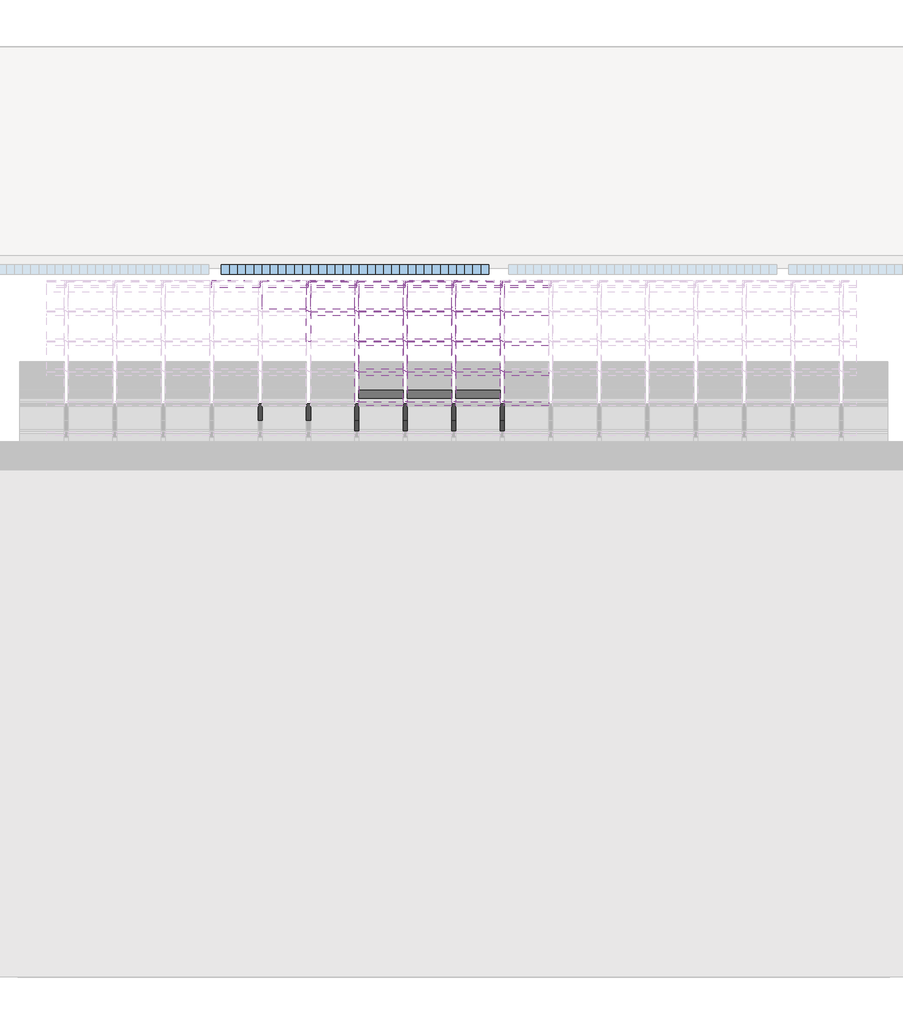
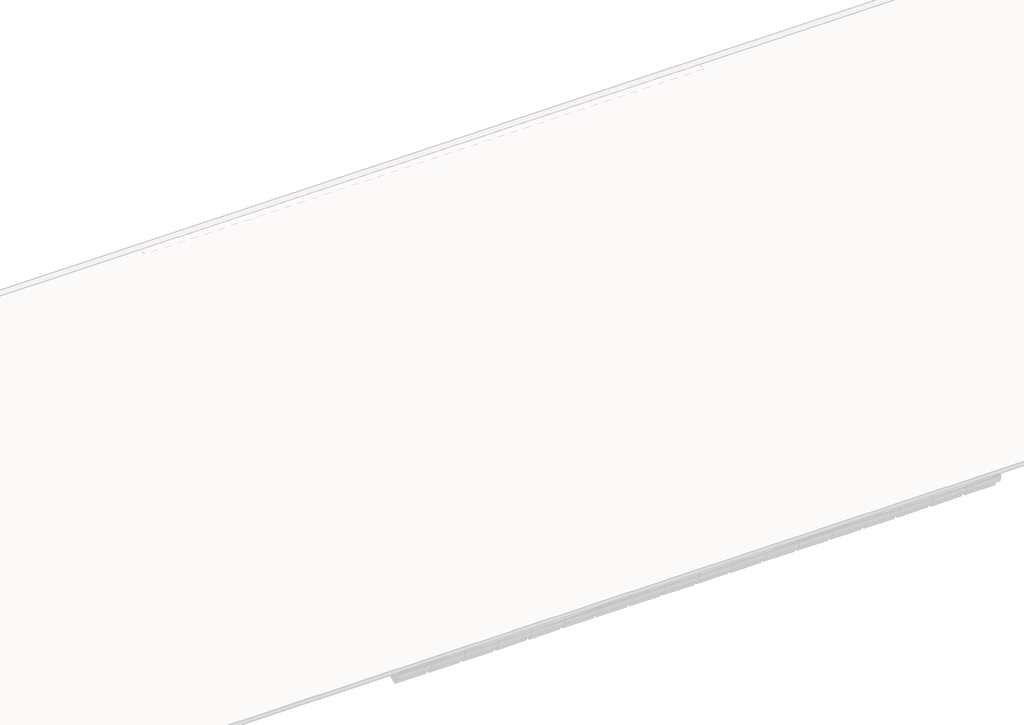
# One storey, part 33 of 57: 88 members, 32 plates, 1 window.
"""IFC4 building model written with IfcOpenShell, lengths in millimetres."""

from ifc_helpers import new_model, si_unit, origin, place, context, project, spatial, transform, mapped, element, save
from components import rectangular_mullion_4c4137b9, rectangular_mullion_59984080, rectangular_mullion_2d2423ea, rectangular_mullion_3ac3718c, rectangular_mullion_caibro_df98490b, rectangular_mullion_caibro_e4384bba, rectangular_mullion_caibro_0993a3cf, rectangular_mullion_caibro_650698a1, empty_system_panel_vazio_178faf58, empty_system_panel_vazio_2c78850d, window_60306791, window_6c828501, window_02d14e1e

model = new_model("IFC4")

# Units and contexts
model_context = context("Model", 3, world=origin())
ifc_project = project(units=[si_unit("LENGTHUNIT", "METRE", prefix="MILLI")], contexts=[model_context])

# Site, building, storey
site = spatial("IfcSite", under=ifc_project)
building = spatial("IfcBuilding", under=site)
storey = spatial("IfcBuildingStorey", under=building, Name="Nível 2", Elevation=4100.0)

# Members
placement = place(None, origin())
rectangular_mullion_shape = rectangular_mullion_4c4137b9(model_context)
element("IfcMember", 1, ObjectType="Rectangular Mullion : Ripa", at=placement, inside=storey, context=model_context, shape_type="MappedRepresentation", body=[
    mapped(rectangular_mullion_shape, transform((21454.4876142, 15566.1284427, 5819.8877114), x_axis=(0.0, 0.9578262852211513, 0.2873478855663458), y_axis=(0.0, 0.2873478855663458, -0.9578262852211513), z_axis=(-1.0, 0.0, 0.0))),
])
element("IfcMember", 2, ObjectType="Rectangular Mullion : Ripa", at=placement, inside=storey, context=model_context, shape_type="MappedRepresentation", body=[
    mapped(rectangular_mullion_shape, transform((22051.5423706, 15566.1284427, 5819.8877114), x_axis=(0.0, 0.9578262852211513, 0.2873478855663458), y_axis=(0.0, 0.2873478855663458, -0.9578262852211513), z_axis=(-1.0, 0.0, 0.0))),
])
element("IfcMember", 3, ObjectType="Rectangular Mullion : Ripa", at=placement, inside=storey, context=model_context, shape_type="MappedRepresentation", body=[
    mapped(rectangular_mullion_shape, transform((22648.597127, 15566.1284427, 5819.8877114), x_axis=(0.0, 0.9578262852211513, 0.2873478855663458), y_axis=(0.0, 0.2873478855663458, -0.9578262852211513), z_axis=(-1.0, 0.0, 0.0))),
])
element("IfcMember", 4, ObjectType="Rectangular Mullion : Ripa", at=placement, inside=storey, context=model_context, shape_type="MappedRepresentation", body=[
    mapped(rectangular_mullion_shape, transform((23245.6518835, 15566.1284427, 5819.8877114), x_axis=(0.0, 0.9578262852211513, 0.2873478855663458), y_axis=(0.0, 0.2873478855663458, -0.9578262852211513), z_axis=(-1.0, 0.0, 0.0))),
])
element("IfcMember", 5, ObjectType="Rectangular Mullion : Ripa", at=placement, inside=storey, context=model_context, shape_type="MappedRepresentation", body=[
    mapped(rectangular_mullion_shape, transform((23842.7066399, 15566.1284427, 5819.8877114), x_axis=(0.0, 0.9578262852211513, 0.2873478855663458), y_axis=(0.0, 0.2873478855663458, -0.9578262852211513), z_axis=(-1.0, 0.0, 0.0))),
])
rectangular_mullion_2_shape = rectangular_mullion_59984080(model_context)
element("IfcMember", 6, ObjectType="Rectangular Mullion : Ripa", at=placement, inside=storey, context=model_context, shape_type="MappedRepresentation", body=[
    mapped(rectangular_mullion_2_shape, transform((24464.7613963, 8162.5832694, 3598.8241594), x_axis=(0.0, 0.9578262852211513, 0.2873478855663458), y_axis=(0.0, 0.2873478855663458, -0.9578262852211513), z_axis=(-1.0, 0.0, 0.0))),
])
element("IfcMember", 7, ObjectType="Rectangular Mullion : Ripa", at=placement, inside=storey, context=model_context, shape_type="MappedRepresentation", body=[
    mapped(rectangular_mullion_2_shape, transform((25061.8161527, 8162.5832694, 3598.8241594), x_axis=(0.0, 0.9578262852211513, 0.2873478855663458), y_axis=(0.0, 0.2873478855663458, -0.9578262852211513), z_axis=(-1.0, 0.0, 0.0))),
])
element("IfcMember", 8, ObjectType="Rectangular Mullion : Ripa", at=placement, inside=storey, context=model_context, shape_type="MappedRepresentation", body=[
    mapped(rectangular_mullion_2_shape, transform((25658.8709092, 8162.5832694, 3598.8241594), x_axis=(0.0, 0.9578262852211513, 0.2873478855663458), y_axis=(0.0, 0.2873478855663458, -0.9578262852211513), z_axis=(-1.0, 0.0, 0.0))),
])
element("IfcMember", 9, ObjectType="Rectangular Mullion : Ripa", at=placement, inside=storey, context=model_context, shape_type="MappedRepresentation", body=[
    mapped(rectangular_mullion_2_shape, transform((24464.7613963, 8532.7605281, 3709.877337), x_axis=(0.0, 0.9578262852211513, 0.2873478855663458), y_axis=(0.0, 0.2873478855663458, -0.9578262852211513), z_axis=(-1.0, 0.0, 0.0))),
])
element("IfcMember", 10, ObjectType="Rectangular Mullion : Ripa", at=placement, inside=storey, context=model_context, shape_type="MappedRepresentation", body=[
    mapped(rectangular_mullion_2_shape, transform((25061.8161527, 8532.7605281, 3709.877337), x_axis=(0.0, 0.9578262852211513, 0.2873478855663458), y_axis=(0.0, 0.2873478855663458, -0.9578262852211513), z_axis=(-1.0, 0.0, 0.0))),
])
element("IfcMember", 11, ObjectType="Rectangular Mullion : Ripa", at=placement, inside=storey, context=model_context, shape_type="MappedRepresentation", body=[
    mapped(rectangular_mullion_2_shape, transform((25658.8709092, 8532.7605281, 3709.877337), x_axis=(0.0, 0.9578262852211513, 0.2873478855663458), y_axis=(0.0, 0.2873478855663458, -0.9578262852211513), z_axis=(-1.0, 0.0, 0.0))),
])
element("IfcMember", 12, ObjectType="Rectangular Mullion : Ripa", at=placement, inside=storey, context=model_context, shape_type="MappedRepresentation", body=[
    mapped(rectangular_mullion_2_shape, transform((24464.7613963, 8902.9377868, 3820.9305146), x_axis=(0.0, 0.9578262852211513, 0.2873478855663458), y_axis=(0.0, 0.2873478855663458, -0.9578262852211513), z_axis=(-1.0, 0.0, 0.0))),
])
element("IfcMember", 13, ObjectType="Rectangular Mullion : Ripa", at=placement, inside=storey, context=model_context, shape_type="MappedRepresentation", body=[
    mapped(rectangular_mullion_2_shape, transform((25061.8161527, 8902.9377868, 3820.9305146), x_axis=(0.0, 0.9578262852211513, 0.2873478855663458), y_axis=(0.0, 0.2873478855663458, -0.9578262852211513), z_axis=(-1.0, 0.0, 0.0))),
])
element("IfcMember", 14, ObjectType="Rectangular Mullion : Ripa", at=placement, inside=storey, context=model_context, shape_type="MappedRepresentation", body=[
    mapped(rectangular_mullion_2_shape, transform((25658.8709092, 8902.9377868, 3820.9305146), x_axis=(0.0, 0.9578262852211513, 0.2873478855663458), y_axis=(0.0, 0.2873478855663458, -0.9578262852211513), z_axis=(-1.0, 0.0, 0.0))),
])
element("IfcMember", 15, ObjectType="Rectangular Mullion : Ripa", at=placement, inside=storey, context=model_context, shape_type="MappedRepresentation", body=[
    mapped(rectangular_mullion_2_shape, transform((24464.7613963, 9273.1150454, 3931.9836922), x_axis=(0.0, 0.9578262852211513, 0.2873478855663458), y_axis=(0.0, 0.2873478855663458, -0.9578262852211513), z_axis=(-1.0, 0.0, 0.0))),
])
element("IfcMember", 16, ObjectType="Rectangular Mullion : Ripa", at=placement, inside=storey, context=model_context, shape_type="MappedRepresentation", body=[
    mapped(rectangular_mullion_2_shape, transform((24464.7613963, 9643.2923041, 4043.0368698), x_axis=(0.0, 0.9578262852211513, 0.2873478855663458), y_axis=(0.0, 0.2873478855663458, -0.9578262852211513), z_axis=(-1.0, 0.0, 0.0))),
])
element("IfcMember", 17, ObjectType="Rectangular Mullion : Ripa", at=placement, inside=storey, context=model_context, shape_type="MappedRepresentation", body=[
    mapped(rectangular_mullion_2_shape, transform((22076.5423706, 14085.4194081, 5375.675001), x_axis=(0.0, 0.9578262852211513, 0.2873478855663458), y_axis=(0.0, 0.2873478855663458, -0.9578262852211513), z_axis=(-1.0, 0.0, 0.0))),
])
element("IfcMember", 18, ObjectType="Rectangular Mullion : Ripa", at=placement, inside=storey, context=model_context, shape_type="MappedRepresentation", body=[
    mapped(rectangular_mullion_2_shape, transform((22673.597127, 14085.4194081, 5375.675001), x_axis=(0.0, 0.9578262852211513, 0.2873478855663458), y_axis=(0.0, 0.2873478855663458, -0.9578262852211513), z_axis=(-1.0, 0.0, 0.0))),
])
element("IfcMember", 19, ObjectType="Rectangular Mullion : Ripa", at=placement, inside=storey, context=model_context, shape_type="MappedRepresentation", body=[
    mapped(rectangular_mullion_2_shape, transform((23270.6518835, 14085.4194081, 5375.675001), x_axis=(0.0, 0.9578262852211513, 0.2873478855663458), y_axis=(0.0, 0.2873478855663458, -0.9578262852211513), z_axis=(-1.0, 0.0, 0.0))),
])
element("IfcMember", 20, ObjectType="Rectangular Mullion : Ripa", at=placement, inside=storey, context=model_context, shape_type="MappedRepresentation", body=[
    mapped(rectangular_mullion_2_shape, transform((23867.7066399, 14085.4194081, 5375.675001), x_axis=(0.0, 0.9578262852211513, 0.2873478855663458), y_axis=(0.0, 0.2873478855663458, -0.9578262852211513), z_axis=(-1.0, 0.0, 0.0))),
])
element("IfcMember", 21, ObjectType="Rectangular Mullion : Ripa", at=placement, inside=storey, context=model_context, shape_type="MappedRepresentation", body=[
    mapped(rectangular_mullion_2_shape, transform((22076.5423706, 14455.5966667, 5486.7281786), x_axis=(0.0, 0.9578262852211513, 0.2873478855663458), y_axis=(0.0, 0.2873478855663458, -0.9578262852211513), z_axis=(-1.0, 0.0, 0.0))),
])
element("IfcMember", 22, ObjectType="Rectangular Mullion : Ripa", at=placement, inside=storey, context=model_context, shape_type="MappedRepresentation", body=[
    mapped(rectangular_mullion_2_shape, transform((22673.597127, 14455.5966667, 5486.7281786), x_axis=(0.0, 0.9578262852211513, 0.2873478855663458), y_axis=(0.0, 0.2873478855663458, -0.9578262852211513), z_axis=(-1.0, 0.0, 0.0))),
])
element("IfcMember", 23, ObjectType="Rectangular Mullion : Ripa", at=placement, inside=storey, context=model_context, shape_type="MappedRepresentation", body=[
    mapped(rectangular_mullion_2_shape, transform((23270.6518835, 14455.5966667, 5486.7281786), x_axis=(0.0, 0.9578262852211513, 0.2873478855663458), y_axis=(0.0, 0.2873478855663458, -0.9578262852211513), z_axis=(-1.0, 0.0, 0.0))),
])
element("IfcMember", 24, ObjectType="Rectangular Mullion : Ripa", at=placement, inside=storey, context=model_context, shape_type="MappedRepresentation", body=[
    mapped(rectangular_mullion_2_shape, transform((23867.7066399, 14455.5966667, 5486.7281786), x_axis=(0.0, 0.9578262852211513, 0.2873478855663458), y_axis=(0.0, 0.2873478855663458, -0.9578262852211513), z_axis=(-1.0, 0.0, 0.0))),
])
element("IfcMember", 25, ObjectType="Rectangular Mullion : Ripa", at=placement, inside=storey, context=model_context, shape_type="MappedRepresentation", body=[
    mapped(rectangular_mullion_2_shape, transform((22076.5423706, 14825.7739254, 5597.7813562), x_axis=(0.0, 0.9578262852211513, 0.2873478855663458), y_axis=(0.0, 0.2873478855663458, -0.9578262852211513), z_axis=(-1.0, 0.0, 0.0))),
])
element("IfcMember", 26, ObjectType="Rectangular Mullion : Ripa", at=placement, inside=storey, context=model_context, shape_type="MappedRepresentation", body=[
    mapped(rectangular_mullion_2_shape, transform((22673.597127, 14825.7739254, 5597.7813562), x_axis=(0.0, 0.9578262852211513, 0.2873478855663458), y_axis=(0.0, 0.2873478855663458, -0.9578262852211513), z_axis=(-1.0, 0.0, 0.0))),
])
element("IfcMember", 27, ObjectType="Rectangular Mullion : Ripa", at=placement, inside=storey, context=model_context, shape_type="MappedRepresentation", body=[
    mapped(rectangular_mullion_2_shape, transform((23270.6518835, 14825.7739254, 5597.7813562), x_axis=(0.0, 0.9578262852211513, 0.2873478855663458), y_axis=(0.0, 0.2873478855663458, -0.9578262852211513), z_axis=(-1.0, 0.0, 0.0))),
])
element("IfcMember", 28, ObjectType="Rectangular Mullion : Ripa", at=placement, inside=storey, context=model_context, shape_type="MappedRepresentation", body=[
    mapped(rectangular_mullion_2_shape, transform((23867.7066399, 14825.7739254, 5597.7813562), x_axis=(0.0, 0.9578262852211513, 0.2873478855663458), y_axis=(0.0, 0.2873478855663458, -0.9578262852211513), z_axis=(-1.0, 0.0, 0.0))),
])
element("IfcMember", 29, ObjectType="Rectangular Mullion : Ripa", at=placement, inside=storey, context=model_context, shape_type="MappedRepresentation", body=[
    mapped(rectangular_mullion_2_shape, transform((21479.4876142, 15195.9511841, 5708.8345338), x_axis=(0.0, 0.9578262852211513, 0.2873478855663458), y_axis=(0.0, 0.2873478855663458, -0.9578262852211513), z_axis=(-1.0, 0.0, 0.0))),
])
element("IfcMember", 30, ObjectType="Rectangular Mullion : Ripa", at=placement, inside=storey, context=model_context, shape_type="MappedRepresentation", body=[
    mapped(rectangular_mullion_2_shape, transform((22076.5423706, 15195.9511841, 5708.8345338), x_axis=(0.0, 0.9578262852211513, 0.2873478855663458), y_axis=(0.0, 0.2873478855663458, -0.9578262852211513), z_axis=(-1.0, 0.0, 0.0))),
])
element("IfcMember", 31, ObjectType="Rectangular Mullion : Ripa", at=placement, inside=storey, context=model_context, shape_type="MappedRepresentation", body=[
    mapped(rectangular_mullion_2_shape, transform((22673.597127, 15195.9511841, 5708.8345338), x_axis=(0.0, 0.9578262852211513, 0.2873478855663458), y_axis=(0.0, 0.2873478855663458, -0.9578262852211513), z_axis=(-1.0, 0.0, 0.0))),
])
element("IfcMember", 32, ObjectType="Rectangular Mullion : Ripa", at=placement, inside=storey, context=model_context, shape_type="MappedRepresentation", body=[
    mapped(rectangular_mullion_2_shape, transform((23270.6518835, 15195.9511841, 5708.8345338), x_axis=(0.0, 0.9578262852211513, 0.2873478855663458), y_axis=(0.0, 0.2873478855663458, -0.9578262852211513), z_axis=(-1.0, 0.0, 0.0))),
])
element("IfcMember", 33, ObjectType="Rectangular Mullion : Ripa", at=placement, inside=storey, context=model_context, shape_type="MappedRepresentation", body=[
    mapped(rectangular_mullion_2_shape, transform((23867.7066399, 15195.9511841, 5708.8345338), x_axis=(0.0, 0.9578262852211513, 0.2873478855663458), y_axis=(0.0, 0.2873478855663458, -0.9578262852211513), z_axis=(-1.0, 0.0, 0.0))),
])
rectangular_mullion_3_shape = rectangular_mullion_2d2423ea(model_context)
element("IfcMember", 34, ObjectType="Rectangular Mullion : Terça", at=placement, inside=storey, context=model_context, shape_type="MappedRepresentation", body=[
    mapped(rectangular_mullion_3_shape, transform((24464.7613963, 9159.0196393, 3835.1132313), x_axis=(0.0, 0.9578262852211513, 0.2873478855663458), y_axis=(0.0, 0.2873478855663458, -0.9578262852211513), z_axis=(-1.0, 0.0, 0.0))),
])
rectangular_mullion_4_shape = rectangular_mullion_3ac3718c(model_context)
element("IfcMember", 35, ObjectType="Rectangular Mullion : Terça", at=placement, inside=storey, context=model_context, shape_type="MappedRepresentation", body=[
    mapped(rectangular_mullion_4_shape, transform((20260.3781013, 15566.1284427, 5757.2458723), x_axis=(0.0, 0.9578262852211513, 0.2873478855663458), y_axis=(0.0, 0.2873478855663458, -0.9578262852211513), z_axis=(-1.0, 0.0, 0.0))),
])
element("IfcMember", 36, ObjectType="Rectangular Mullion : Terça", at=placement, inside=storey, context=model_context, shape_type="MappedRepresentation", body=[
    mapped(rectangular_mullion_4_shape, transform((20857.4328578, 15566.1284427, 5757.2458723), x_axis=(0.0, 0.9578262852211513, 0.2873478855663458), y_axis=(0.0, 0.2873478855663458, -0.9578262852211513), z_axis=(-1.0, 0.0, 0.0))),
])
element("IfcMember", 37, ObjectType="Rectangular Mullion : Terça", at=placement, inside=storey, context=model_context, shape_type="MappedRepresentation", body=[
    mapped(rectangular_mullion_4_shape, transform((21454.4876142, 15566.1284427, 5757.2458723), x_axis=(0.0, 0.9578262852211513, 0.2873478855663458), y_axis=(0.0, 0.2873478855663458, -0.9578262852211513), z_axis=(-1.0, 0.0, 0.0))),
])
element("IfcMember", 38, ObjectType="Rectangular Mullion : Terça", at=placement, inside=storey, context=model_context, shape_type="MappedRepresentation", body=[
    mapped(rectangular_mullion_4_shape, transform((22051.5423706, 15566.1284427, 5757.2458723), x_axis=(0.0, 0.9578262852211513, 0.2873478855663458), y_axis=(0.0, 0.2873478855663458, -0.9578262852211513), z_axis=(-1.0, 0.0, 0.0))),
])
element("IfcMember", 39, ObjectType="Rectangular Mullion : Terça", at=placement, inside=storey, context=model_context, shape_type="MappedRepresentation", body=[
    mapped(rectangular_mullion_4_shape, transform((22648.597127, 15566.1284427, 5757.2458723), x_axis=(0.0, 0.9578262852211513, 0.2873478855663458), y_axis=(0.0, 0.2873478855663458, -0.9578262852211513), z_axis=(-1.0, 0.0, 0.0))),
])
element("IfcMember", 40, ObjectType="Rectangular Mullion : Terça", at=placement, inside=storey, context=model_context, shape_type="MappedRepresentation", body=[
    mapped(rectangular_mullion_4_shape, transform((23245.6518835, 15566.1284427, 5757.2458723), x_axis=(0.0, 0.9578262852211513, 0.2873478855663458), y_axis=(0.0, 0.2873478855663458, -0.9578262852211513), z_axis=(-1.0, 0.0, 0.0))),
])
element("IfcMember", 41, ObjectType="Rectangular Mullion : Terça", at=placement, inside=storey, context=model_context, shape_type="MappedRepresentation", body=[
    mapped(rectangular_mullion_4_shape, transform((23842.7066399, 15566.1284427, 5757.2458723), x_axis=(0.0, 0.9578262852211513, 0.2873478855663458), y_axis=(0.0, 0.2873478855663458, -0.9578262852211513), z_axis=(-1.0, 0.0, 0.0))),
])
rectangular_mullion_caibro_shape = rectangular_mullion_caibro_df98490b(model_context)
element("IfcMember", 42, ObjectType="Rectangular Mullion : Caibro", at=placement, inside=storey, context=model_context, shape_type="MappedRepresentation", body=[
    mapped(rectangular_mullion_caibro_shape, transform((21454.4876142, 15518.2371285, 5805.5203171), x_axis=(1.0, 0.0, 0.0), y_axis=(0.0, 0.28734788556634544, -0.9578262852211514), z_axis=(0.0, 0.9578262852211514, 0.28734788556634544))),
])
element("IfcMember", 43, ObjectType="Rectangular Mullion : Caibro", at=placement, inside=storey, context=model_context, shape_type="MappedRepresentation", body=[
    mapped(rectangular_mullion_caibro_shape, transform((22051.5423706, 15518.2371285, 5805.5203171), x_axis=(1.0, 0.0, 0.0), y_axis=(0.0, 0.28734788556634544, -0.9578262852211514), z_axis=(0.0, 0.9578262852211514, 0.28734788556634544))),
])
element("IfcMember", 44, ObjectType="Rectangular Mullion : Caibro", at=placement, inside=storey, context=model_context, shape_type="MappedRepresentation", body=[
    mapped(rectangular_mullion_caibro_shape, transform((22648.597127, 15518.2371285, 5805.5203171), x_axis=(1.0, 0.0, 0.0), y_axis=(0.0, 0.28734788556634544, -0.9578262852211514), z_axis=(0.0, 0.9578262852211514, 0.28734788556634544))),
])
element("IfcMember", 45, ObjectType="Rectangular Mullion : Caibro", at=placement, inside=storey, context=model_context, shape_type="MappedRepresentation", body=[
    mapped(rectangular_mullion_caibro_shape, transform((23245.6518835, 15518.2371285, 5805.5203171), x_axis=(1.0, 0.0, 0.0), y_axis=(0.0, 0.28734788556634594, -0.9578262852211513), z_axis=(0.0, 0.9578262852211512, 0.2873478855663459))),
])
element("IfcMember", 46, ObjectType="Rectangular Mullion : Caibro", at=placement, inside=storey, context=model_context, shape_type="MappedRepresentation", body=[
    mapped(rectangular_mullion_caibro_shape, transform((23842.7066399, 15518.2371285, 5805.5203171), x_axis=(1.0, 0.0, 0.0), y_axis=(0.0, 0.28734788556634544, -0.9578262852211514), z_axis=(0.0, 0.9578262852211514, 0.28734788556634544))),
])
rectangular_mullion_caibro_2_shape = rectangular_mullion_caibro_e4384bba(model_context)
element("IfcMember", 47, ObjectType="Rectangular Mullion : Caibro", at=placement, inside=storey, context=model_context, shape_type="MappedRepresentation", body=[
    mapped(rectangular_mullion_caibro_2_shape, transform((21454.4876142, 15195.9511841, 5708.8345338), x_axis=(1.0, 0.0, 0.0), y_axis=(0.0, 0.28734788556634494, -0.9578262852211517), z_axis=(0.0, 0.9578262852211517, 0.28734788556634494))),
])
element("IfcMember", 48, ObjectType="Rectangular Mullion : Caibro", at=placement, inside=storey, context=model_context, shape_type="MappedRepresentation", body=[
    mapped(rectangular_mullion_caibro_2_shape, transform((22051.5423706, 14085.4194081, 5375.675001), x_axis=(1.0, 0.0, 0.0), y_axis=(0.0, 0.28734788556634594, -0.9578262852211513), z_axis=(0.0, 0.9578262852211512, 0.2873478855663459))),
])
element("IfcMember", 49, ObjectType="Rectangular Mullion : Caibro", at=placement, inside=storey, context=model_context, shape_type="MappedRepresentation", body=[
    mapped(rectangular_mullion_caibro_2_shape, transform((22051.5423706, 14455.5966667, 5486.7281786), x_axis=(1.0, 0.0, 0.0), y_axis=(0.0, 0.2873478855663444, -0.9578262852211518), z_axis=(0.0, 0.9578262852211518, 0.2873478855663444))),
])
element("IfcMember", 50, ObjectType="Rectangular Mullion : Caibro", at=placement, inside=storey, context=model_context, shape_type="MappedRepresentation", body=[
    mapped(rectangular_mullion_caibro_2_shape, transform((22051.5423706, 14825.7739254, 5597.7813562), x_axis=(1.0, 0.0, 0.0), y_axis=(0.0, 0.287347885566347, -0.9578262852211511), z_axis=(0.0, 0.9578262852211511, 0.287347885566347))),
])
element("IfcMember", 51, ObjectType="Rectangular Mullion : Caibro", at=placement, inside=storey, context=model_context, shape_type="MappedRepresentation", body=[
    mapped(rectangular_mullion_caibro_2_shape, transform((22051.5423706, 15195.9511841, 5708.8345338), x_axis=(1.0, 0.0, 0.0), y_axis=(0.0, 0.28734788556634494, -0.9578262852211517), z_axis=(0.0, 0.9578262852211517, 0.28734788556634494))),
])
element("IfcMember", 52, ObjectType="Rectangular Mullion : Caibro", at=placement, inside=storey, context=model_context, shape_type="MappedRepresentation", body=[
    mapped(rectangular_mullion_caibro_2_shape, transform((22648.597127, 14085.4194081, 5375.675001), x_axis=(1.0, 0.0, 0.0), y_axis=(0.0, 0.28734788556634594, -0.9578262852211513), z_axis=(0.0, 0.9578262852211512, 0.2873478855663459))),
])
element("IfcMember", 53, ObjectType="Rectangular Mullion : Caibro", at=placement, inside=storey, context=model_context, shape_type="MappedRepresentation", body=[
    mapped(rectangular_mullion_caibro_2_shape, transform((22648.597127, 14455.5966667, 5486.7281786), x_axis=(1.0, 0.0, 0.0), y_axis=(0.0, 0.2873478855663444, -0.9578262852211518), z_axis=(0.0, 0.9578262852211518, 0.2873478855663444))),
])
element("IfcMember", 54, ObjectType="Rectangular Mullion : Caibro", at=placement, inside=storey, context=model_context, shape_type="MappedRepresentation", body=[
    mapped(rectangular_mullion_caibro_2_shape, transform((22648.597127, 14825.7739254, 5597.7813562), x_axis=(1.0, 0.0, 0.0), y_axis=(0.0, 0.287347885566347, -0.9578262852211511), z_axis=(0.0, 0.9578262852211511, 0.287347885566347))),
])
element("IfcMember", 55, ObjectType="Rectangular Mullion : Caibro", at=placement, inside=storey, context=model_context, shape_type="MappedRepresentation", body=[
    mapped(rectangular_mullion_caibro_2_shape, transform((22648.597127, 15195.9511841, 5708.8345338), x_axis=(1.0, 0.0, 0.0), y_axis=(0.0, 0.28734788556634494, -0.9578262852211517), z_axis=(0.0, 0.9578262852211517, 0.28734788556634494))),
])
element("IfcMember", 56, ObjectType="Rectangular Mullion : Caibro", at=placement, inside=storey, context=model_context, shape_type="MappedRepresentation", body=[
    mapped(rectangular_mullion_caibro_2_shape, transform((23245.6518835, 14085.4194081, 5375.675001), x_axis=(1.0, 0.0, 0.0), y_axis=(0.0, 0.28734788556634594, -0.9578262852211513), z_axis=(0.0, 0.9578262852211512, 0.2873478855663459))),
])
element("IfcMember", 57, ObjectType="Rectangular Mullion : Caibro", at=placement, inside=storey, context=model_context, shape_type="MappedRepresentation", body=[
    mapped(rectangular_mullion_caibro_2_shape, transform((23245.6518835, 14455.5966667, 5486.7281786), x_axis=(1.0, 0.0, 0.0), y_axis=(0.0, 0.28734788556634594, -0.9578262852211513), z_axis=(0.0, 0.9578262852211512, 0.2873478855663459))),
])
element("IfcMember", 58, ObjectType="Rectangular Mullion : Caibro", at=placement, inside=storey, context=model_context, shape_type="MappedRepresentation", body=[
    mapped(rectangular_mullion_caibro_2_shape, transform((23245.6518835, 14825.7739254, 5597.7813562), x_axis=(1.0, 0.0, 0.0), y_axis=(0.0, 0.28734788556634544, -0.9578262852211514), z_axis=(0.0, 0.9578262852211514, 0.28734788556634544))),
])
element("IfcMember", 59, ObjectType="Rectangular Mullion : Caibro", at=placement, inside=storey, context=model_context, shape_type="MappedRepresentation", body=[
    mapped(rectangular_mullion_caibro_2_shape, transform((23245.6518835, 15195.9511841, 5708.8345338), x_axis=(1.0, 0.0, 0.0), y_axis=(0.0, 0.28734788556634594, -0.9578262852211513), z_axis=(0.0, 0.9578262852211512, 0.2873478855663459))),
])
element("IfcMember", 60, ObjectType="Rectangular Mullion : Caibro", at=placement, inside=storey, context=model_context, shape_type="MappedRepresentation", body=[
    mapped(rectangular_mullion_caibro_2_shape, transform((23842.7066399, 14085.4194081, 5375.675001), x_axis=(1.0, 0.0, 0.0), y_axis=(0.0, 0.28734788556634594, -0.9578262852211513), z_axis=(0.0, 0.9578262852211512, 0.2873478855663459))),
])
element("IfcMember", 61, ObjectType="Rectangular Mullion : Caibro", at=placement, inside=storey, context=model_context, shape_type="MappedRepresentation", body=[
    mapped(rectangular_mullion_caibro_2_shape, transform((23842.7066399, 14455.5966667, 5486.7281786), x_axis=(1.0, 0.0, 0.0), y_axis=(0.0, 0.2873478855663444, -0.9578262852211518), z_axis=(0.0, 0.9578262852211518, 0.2873478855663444))),
])
element("IfcMember", 62, ObjectType="Rectangular Mullion : Caibro", at=placement, inside=storey, context=model_context, shape_type="MappedRepresentation", body=[
    mapped(rectangular_mullion_caibro_2_shape, transform((23842.7066399, 14825.7739254, 5597.7813562), x_axis=(1.0, 0.0, 0.0), y_axis=(0.0, 0.287347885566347, -0.9578262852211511), z_axis=(0.0, 0.9578262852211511, 0.287347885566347))),
])
element("IfcMember", 63, ObjectType="Rectangular Mullion : Caibro", at=placement, inside=storey, context=model_context, shape_type="MappedRepresentation", body=[
    mapped(rectangular_mullion_caibro_2_shape, transform((23842.7066399, 15195.9511841, 5708.8345338), x_axis=(1.0, 0.0, 0.0), y_axis=(0.0, 0.28734788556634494, -0.9578262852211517), z_axis=(0.0, 0.9578262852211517, 0.28734788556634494))),
])
element("IfcMember", 64, ObjectType="Rectangular Mullion : Caibro", at=placement, inside=storey, context=model_context, shape_type="MappedRepresentation", body=[
    mapped(rectangular_mullion_caibro_2_shape, transform((24439.7613963, 8162.5832694, 3598.8241594), x_axis=(1.0, 0.0, 0.0), y_axis=(0.0, 0.28734788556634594, -0.9578262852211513), z_axis=(0.0, 0.9578262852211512, 0.2873478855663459))),
])
element("IfcMember", 65, ObjectType="Rectangular Mullion : Caibro", at=placement, inside=storey, context=model_context, shape_type="MappedRepresentation", body=[
    mapped(rectangular_mullion_caibro_2_shape, transform((24439.7613963, 8532.7605281, 3709.877337), x_axis=(1.0, 0.0, 0.0), y_axis=(0.0, 0.2873478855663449, -0.9578262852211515), z_axis=(0.0, 0.9578262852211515, 0.2873478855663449))),
])
element("IfcMember", 66, ObjectType="Rectangular Mullion : Caibro", at=placement, inside=storey, context=model_context, shape_type="MappedRepresentation", body=[
    mapped(rectangular_mullion_caibro_2_shape, transform((24439.7613963, 8902.9377868, 3820.9305146), x_axis=(1.0, 0.0, 0.0), y_axis=(0.0, 0.2873478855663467, -0.9578262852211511), z_axis=(0.0, 0.9578262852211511, 0.2873478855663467))),
])
element("IfcMember", 67, ObjectType="Rectangular Mullion : Caibro", at=placement, inside=storey, context=model_context, shape_type="MappedRepresentation", body=[
    mapped(rectangular_mullion_caibro_2_shape, transform((24439.7613963, 9273.1150454, 3931.9836922), x_axis=(1.0, 0.0, 0.0), y_axis=(0.0, 0.2873478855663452, -0.9578262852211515), z_axis=(0.0, 0.9578262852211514, 0.28734788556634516))),
])
element("IfcMember", 68, ObjectType="Rectangular Mullion : Caibro", at=placement, inside=storey, context=model_context, shape_type="MappedRepresentation", body=[
    mapped(rectangular_mullion_caibro_2_shape, transform((24439.7613963, 9643.2923041, 4043.0368698), x_axis=(1.0, 0.0, 0.0), y_axis=(0.0, 0.28734788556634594, -0.9578262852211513), z_axis=(0.0, 0.9578262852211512, 0.2873478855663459))),
])
element("IfcMember", 69, ObjectType="Rectangular Mullion : Caibro", at=placement, inside=storey, context=model_context, shape_type="MappedRepresentation", body=[
    mapped(rectangular_mullion_caibro_2_shape, transform((25036.8161527, 8162.5832694, 3598.8241594), x_axis=(1.0, 0.0, 0.0), y_axis=(0.0, 0.28734788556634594, -0.9578262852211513), z_axis=(0.0, 0.9578262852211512, 0.2873478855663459))),
])
element("IfcMember", 70, ObjectType="Rectangular Mullion : Caibro", at=placement, inside=storey, context=model_context, shape_type="MappedRepresentation", body=[
    mapped(rectangular_mullion_caibro_2_shape, transform((25036.8161527, 8532.7605281, 3709.877337), x_axis=(1.0, 0.0, 0.0), y_axis=(0.0, 0.2873478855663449, -0.9578262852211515), z_axis=(0.0, 0.9578262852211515, 0.2873478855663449))),
])
element("IfcMember", 71, ObjectType="Rectangular Mullion : Caibro", at=placement, inside=storey, context=model_context, shape_type="MappedRepresentation", body=[
    mapped(rectangular_mullion_caibro_2_shape, transform((25036.8161527, 8902.9377868, 3820.9305146), x_axis=(1.0, 0.0, 0.0), y_axis=(0.0, 0.2873478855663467, -0.9578262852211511), z_axis=(0.0, 0.9578262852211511, 0.2873478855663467))),
])
element("IfcMember", 72, ObjectType="Rectangular Mullion : Caibro", at=placement, inside=storey, context=model_context, shape_type="MappedRepresentation", body=[
    mapped(rectangular_mullion_caibro_2_shape, transform((25633.8709092, 8162.5832694, 3598.8241594), x_axis=(1.0, 0.0, 0.0), y_axis=(0.0, 0.28734788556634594, -0.9578262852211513), z_axis=(0.0, 0.9578262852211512, 0.2873478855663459))),
])
element("IfcMember", 73, ObjectType="Rectangular Mullion : Caibro", at=placement, inside=storey, context=model_context, shape_type="MappedRepresentation", body=[
    mapped(rectangular_mullion_caibro_2_shape, transform((25633.8709092, 8532.7605281, 3709.877337), x_axis=(1.0, 0.0, 0.0), y_axis=(0.0, 0.2873478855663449, -0.9578262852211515), z_axis=(0.0, 0.9578262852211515, 0.2873478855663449))),
])
element("IfcMember", 74, ObjectType="Rectangular Mullion : Caibro", at=placement, inside=storey, context=model_context, shape_type="MappedRepresentation", body=[
    mapped(rectangular_mullion_caibro_2_shape, transform((25633.8709092, 8902.9377868, 3820.9305146), x_axis=(1.0, 0.0, 0.0), y_axis=(0.0, 0.2873478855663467, -0.9578262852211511), z_axis=(0.0, 0.9578262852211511, 0.2873478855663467))),
])
rectangular_mullion_caibro_3_shape = rectangular_mullion_caibro_0993a3cf(model_context)
element("IfcMember", 75, ObjectType="Rectangular Mullion : Caibro", at=placement, inside=storey, context=model_context, shape_type="MappedRepresentation", body=[
    mapped(rectangular_mullion_caibro_3_shape, transform((20857.4328578, 15508.6588656, 5740.0049992), x_axis=(1.0, 0.0, 0.0), y_axis=(0.0, 0.28734788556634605, -0.9578262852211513), z_axis=(0.0, 0.9578262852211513, 0.28734788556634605))),
])
element("IfcMember", 76, ObjectType="Rectangular Mullion : Caibro", at=placement, inside=storey, context=model_context, shape_type="MappedRepresentation", body=[
    mapped(rectangular_mullion_caibro_3_shape, transform((21454.4876142, 15508.6588656, 5740.0049992), x_axis=(1.0, 0.0, 0.0), y_axis=(0.0, 0.28734788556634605, -0.9578262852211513), z_axis=(0.0, 0.9578262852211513, 0.28734788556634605))),
])
element("IfcMember", 77, ObjectType="Rectangular Mullion : Caibro", at=placement, inside=storey, context=model_context, shape_type="MappedRepresentation", body=[
    mapped(rectangular_mullion_caibro_3_shape, transform((22051.5423706, 15508.6588656, 5740.0049992), x_axis=(1.0, 0.0, 0.0), y_axis=(0.0, 0.28734788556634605, -0.9578262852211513), z_axis=(0.0, 0.9578262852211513, 0.28734788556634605))),
])
element("IfcMember", 78, ObjectType="Rectangular Mullion : Caibro", at=placement, inside=storey, context=model_context, shape_type="MappedRepresentation", body=[
    mapped(rectangular_mullion_caibro_3_shape, transform((22648.597127, 15508.6588656, 5740.0049992), x_axis=(1.0, 0.0, 0.0), y_axis=(0.0, 0.28734788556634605, -0.9578262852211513), z_axis=(0.0, 0.9578262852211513, 0.28734788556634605))),
])
element("IfcMember", 79, ObjectType="Rectangular Mullion : Caibro", at=placement, inside=storey, context=model_context, shape_type="MappedRepresentation", body=[
    mapped(rectangular_mullion_caibro_3_shape, transform((23245.6518835, 15508.6588656, 5740.0049992), x_axis=(1.0, 0.0, 0.0), y_axis=(0.0, 0.28734788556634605, -0.9578262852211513), z_axis=(0.0, 0.9578262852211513, 0.28734788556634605))),
])
element("IfcMember", 80, ObjectType="Rectangular Mullion : Caibro", at=placement, inside=storey, context=model_context, shape_type="MappedRepresentation", body=[
    mapped(rectangular_mullion_caibro_3_shape, transform((23842.7066399, 15508.6588656, 5740.0049992), x_axis=(1.0, 0.0, 0.0), y_axis=(0.0, 0.28734788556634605, -0.9578262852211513), z_axis=(0.0, 0.9578262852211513, 0.28734788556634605))),
])
element("IfcMember", 81, ObjectType="Rectangular Mullion : Caibro", at=placement, inside=storey, context=model_context, shape_type="MappedRepresentation", body=[
    mapped(rectangular_mullion_caibro_3_shape, transform((24439.7613963, 9159.0196393, 3835.1132313), x_axis=(1.0, 0.0, 0.0), y_axis=(0.0, 0.28734788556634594, -0.9578262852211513), z_axis=(0.0, 0.9578262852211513, 0.28734788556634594))),
])
rectangular_mullion_caibro_4_shape = rectangular_mullion_caibro_650698a1(model_context)
element("IfcMember", 82, ObjectType="Rectangular Mullion : Caibro", at=placement, inside=storey, context=model_context, shape_type="MappedRepresentation", body=[
    mapped(rectangular_mullion_caibro_4_shape, transform((23833.7261111, 15772.0058221, 4410.7541277), x_axis=(-1.0, 0.0, 0.0), y_axis=(0.0, -0.2873478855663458, -0.9578262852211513), z_axis=(0.0, -0.9578262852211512, 0.2873478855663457))),
])
element("IfcMember", 83, ObjectType="Rectangular Mullion : Caibro", at=placement, inside=storey, context=model_context, shape_type="MappedRepresentation", body=[
    mapped(rectangular_mullion_caibro_4_shape, transform((23236.3776094, 15772.0058221, 4410.7541277), x_axis=(-1.0, 0.0, 0.0), y_axis=(0.0, -0.2873478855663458, -0.9578262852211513), z_axis=(0.0, -0.9578262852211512, 0.2873478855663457))),
])
element("IfcMember", 84, ObjectType="Rectangular Mullion : Caibro", at=placement, inside=storey, context=model_context, shape_type="MappedRepresentation", body=[
    mapped(rectangular_mullion_caibro_4_shape, transform((22639.0291078, 15772.0058221, 4410.7541277), x_axis=(-1.0, 0.0, 0.0), y_axis=(0.0, -0.2873478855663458, -0.9578262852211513), z_axis=(0.0, -0.9578262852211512, 0.2873478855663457))),
])
element("IfcMember", 85, ObjectType="Rectangular Mullion : Caibro", at=placement, inside=storey, context=model_context, shape_type="MappedRepresentation", body=[
    mapped(rectangular_mullion_caibro_4_shape, transform((22041.6806061, 15772.0058221, 4410.7541277), x_axis=(-1.0, 0.0, 0.0), y_axis=(0.0, -0.2873478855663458, -0.9578262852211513), z_axis=(0.0, -0.9578262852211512, 0.2873478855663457))),
])
element("IfcMember", 86, ObjectType="Rectangular Mullion : Caibro", at=placement, inside=storey, context=model_context, shape_type="MappedRepresentation", body=[
    mapped(rectangular_mullion_caibro_4_shape, transform((21444.3321044, 15772.0058221, 4410.7541277), x_axis=(-1.0, 0.0, 0.0), y_axis=(0.0, -0.2873478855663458, -0.9578262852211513), z_axis=(0.0, -0.9578262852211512, 0.2873478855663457))),
])
element("IfcMember", 87, ObjectType="Rectangular Mullion : Caibro", at=placement, inside=storey, context=model_context, shape_type="MappedRepresentation", body=[
    mapped(rectangular_mullion_caibro_4_shape, transform((20846.9836028, 15772.0058221, 4410.7541277), x_axis=(-1.0, 0.0, 0.0), y_axis=(0.0, -0.2873478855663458, -0.9578262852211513), z_axis=(0.0, -0.9578262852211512, 0.2873478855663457))),
])
element("IfcMember", 88, ObjectType="Rectangular Mullion : Caibro", at=placement, inside=storey, context=model_context, shape_type="MappedRepresentation", body=[
    mapped(rectangular_mullion_caibro_4_shape, transform((20249.6351011, 15772.0058221, 4410.7541277), x_axis=(-1.0, 0.0, 0.0), y_axis=(0.0, -0.2873478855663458, -0.9578262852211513), z_axis=(0.0, -0.9578262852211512, 0.2873478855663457))),
])

# Plates
empty_system_panel_vazio_shape = empty_system_panel_vazio_178faf58(model_context)
element("IfcPlate", 89, ObjectType="Empty System Panel : Vazio", at=placement, inside=storey, context=model_context, shape_type="MappedRepresentation", body=[
    mapped(empty_system_panel_vazio_shape, transform((24141.2340181, 8162.5832694, 3598.8241594), x_axis=(1.0, 0.0, 0.0), y_axis=(0.0, 0.2873478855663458, -0.9578262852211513), z_axis=(0.0, 0.9578262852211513, 0.2873478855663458))),
])
element("IfcPlate", 90, ObjectType="Empty System Panel : Vazio", at=placement, inside=storey, context=model_context, shape_type="MappedRepresentation", body=[
    mapped(empty_system_panel_vazio_shape, transform((24738.2887745, 8162.5832694, 3598.8241594), x_axis=(1.0, 0.0, 0.0), y_axis=(0.0, 0.2873478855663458, -0.9578262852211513), z_axis=(0.0, 0.9578262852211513, 0.2873478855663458))),
])
element("IfcPlate", 91, ObjectType="Empty System Panel : Vazio", at=placement, inside=storey, context=model_context, shape_type="MappedRepresentation", body=[
    mapped(empty_system_panel_vazio_shape, transform((25335.3435309, 8162.5832694, 3598.8241594), x_axis=(1.0, 0.0, 0.0), y_axis=(0.0, 0.2873478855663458, -0.9578262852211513), z_axis=(0.0, 0.9578262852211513, 0.2873478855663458))),
])
element("IfcPlate", 92, ObjectType="Empty System Panel : Vazio", at=placement, inside=storey, context=model_context, shape_type="MappedRepresentation", body=[
    mapped(empty_system_panel_vazio_shape, transform((25932.3982874, 8162.5832694, 3598.8241594), x_axis=(1.0, 0.0, 0.0), y_axis=(0.0, 0.2873478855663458, -0.9578262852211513), z_axis=(0.0, 0.9578262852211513, 0.2873478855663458))),
])
element("IfcPlate", 93, ObjectType="Empty System Panel : Vazio", at=placement, inside=storey, context=model_context, shape_type="MappedRepresentation", body=[
    mapped(empty_system_panel_vazio_shape, transform((24141.2340181, 8532.7605281, 3709.877337), x_axis=(1.0, 0.0, 0.0), y_axis=(0.0, 0.2873478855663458, -0.9578262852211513), z_axis=(0.0, 0.9578262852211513, 0.2873478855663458))),
])
element("IfcPlate", 94, ObjectType="Empty System Panel : Vazio", at=placement, inside=storey, context=model_context, shape_type="MappedRepresentation", body=[
    mapped(empty_system_panel_vazio_shape, transform((24738.2887745, 8532.7605281, 3709.877337), x_axis=(1.0, 0.0, 0.0), y_axis=(0.0, 0.2873478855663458, -0.9578262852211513), z_axis=(0.0, 0.9578262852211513, 0.2873478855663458))),
])
element("IfcPlate", 95, ObjectType="Empty System Panel : Vazio", at=placement, inside=storey, context=model_context, shape_type="MappedRepresentation", body=[
    mapped(empty_system_panel_vazio_shape, transform((25335.3435309, 8532.7605281, 3709.877337), x_axis=(1.0, 0.0, 0.0), y_axis=(0.0, 0.2873478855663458, -0.9578262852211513), z_axis=(0.0, 0.9578262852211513, 0.2873478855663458))),
])
element("IfcPlate", 96, ObjectType="Empty System Panel : Vazio", at=placement, inside=storey, context=model_context, shape_type="MappedRepresentation", body=[
    mapped(empty_system_panel_vazio_shape, transform((25932.3982874, 8532.7605281, 3709.877337), x_axis=(1.0, 0.0, 0.0), y_axis=(0.0, 0.2873478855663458, -0.9578262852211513), z_axis=(0.0, 0.9578262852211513, 0.2873478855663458))),
])
element("IfcPlate", 97, ObjectType="Empty System Panel : Vazio", at=placement, inside=storey, context=model_context, shape_type="MappedRepresentation", body=[
    mapped(empty_system_panel_vazio_shape, transform((24141.2340181, 8902.9377868, 3820.9305146), x_axis=(1.0, 0.0, 0.0), y_axis=(0.0, 0.2873478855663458, -0.9578262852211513), z_axis=(0.0, 0.9578262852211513, 0.2873478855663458))),
])
element("IfcPlate", 98, ObjectType="Empty System Panel : Vazio", at=placement, inside=storey, context=model_context, shape_type="MappedRepresentation", body=[
    mapped(empty_system_panel_vazio_shape, transform((24738.2887745, 8902.9377868, 3820.9305146), x_axis=(1.0, 0.0, 0.0), y_axis=(0.0, 0.2873478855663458, -0.9578262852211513), z_axis=(0.0, 0.9578262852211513, 0.2873478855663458))),
])
element("IfcPlate", 99, ObjectType="Empty System Panel : Vazio", at=placement, inside=storey, context=model_context, shape_type="MappedRepresentation", body=[
    mapped(empty_system_panel_vazio_shape, transform((25335.3435309, 8902.9377868, 3820.9305146), x_axis=(1.0, 0.0, 0.0), y_axis=(0.0, 0.2873478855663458, -0.9578262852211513), z_axis=(0.0, 0.9578262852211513, 0.2873478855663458))),
])
element("IfcPlate", 100, ObjectType="Empty System Panel : Vazio", at=placement, inside=storey, context=model_context, shape_type="MappedRepresentation", body=[
    mapped(empty_system_panel_vazio_shape, transform((25932.3982874, 8902.9377868, 3820.9305146), x_axis=(1.0, 0.0, 0.0), y_axis=(0.0, 0.2873478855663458, -0.9578262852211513), z_axis=(0.0, 0.9578262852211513, 0.2873478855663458))),
])
element("IfcPlate", 101, ObjectType="Empty System Panel : Vazio", at=placement, inside=storey, context=model_context, shape_type="MappedRepresentation", body=[
    mapped(empty_system_panel_vazio_shape, transform((24141.2340181, 9273.1150454, 3931.9836922), x_axis=(1.0, 0.0, 0.0), y_axis=(0.0, 0.2873478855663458, -0.9578262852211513), z_axis=(0.0, 0.9578262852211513, 0.2873478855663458))),
])
element("IfcPlate", 102, ObjectType="Empty System Panel : Vazio", at=placement, inside=storey, context=model_context, shape_type="MappedRepresentation", body=[
    mapped(empty_system_panel_vazio_shape, transform((24738.2887745, 9273.1150454, 3931.9836922), x_axis=(1.0, 0.0, 0.0), y_axis=(0.0, 0.2873478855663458, -0.9578262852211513), z_axis=(0.0, 0.9578262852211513, 0.2873478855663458))),
])
element("IfcPlate", 103, ObjectType="Empty System Panel : Vazio", at=placement, inside=storey, context=model_context, shape_type="MappedRepresentation", body=[
    mapped(empty_system_panel_vazio_shape, transform((24141.2340181, 9643.2923041, 4043.0368698), x_axis=(1.0, 0.0, 0.0), y_axis=(0.0, 0.2873478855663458, -0.9578262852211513), z_axis=(0.0, 0.9578262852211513, 0.2873478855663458))),
])
element("IfcPlate", 104, ObjectType="Empty System Panel : Vazio", at=placement, inside=storey, context=model_context, shape_type="MappedRepresentation", body=[
    mapped(empty_system_panel_vazio_shape, transform((24738.2887745, 9643.2923041, 4043.0368698), x_axis=(1.0, 0.0, 0.0), y_axis=(0.0, 0.2873478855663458, -0.9578262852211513), z_axis=(0.0, 0.9578262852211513, 0.2873478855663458))),
])
element("IfcPlate", 105, ObjectType="Empty System Panel : Vazio", at=placement, inside=storey, context=model_context, shape_type="MappedRepresentation", body=[
    mapped(empty_system_panel_vazio_shape, transform((22350.0697488, 14085.4194081, 5375.675001), x_axis=(1.0, 0.0, 0.0), y_axis=(0.0, 0.2873478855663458, -0.9578262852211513), z_axis=(0.0, 0.9578262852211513, 0.2873478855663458))),
])
element("IfcPlate", 106, ObjectType="Empty System Panel : Vazio", at=placement, inside=storey, context=model_context, shape_type="MappedRepresentation", body=[
    mapped(empty_system_panel_vazio_shape, transform((22947.1245052, 14085.4194081, 5375.675001), x_axis=(1.0, 0.0, 0.0), y_axis=(0.0, 0.2873478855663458, -0.9578262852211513), z_axis=(0.0, 0.9578262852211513, 0.2873478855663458))),
])
element("IfcPlate", 107, ObjectType="Empty System Panel : Vazio", at=placement, inside=storey, context=model_context, shape_type="MappedRepresentation", body=[
    mapped(empty_system_panel_vazio_shape, transform((23544.1792617, 14085.4194081, 5375.675001), x_axis=(1.0, 0.0, 0.0), y_axis=(0.0, 0.2873478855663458, -0.9578262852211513), z_axis=(0.0, 0.9578262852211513, 0.2873478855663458))),
])
element("IfcPlate", 108, ObjectType="Empty System Panel : Vazio", at=placement, inside=storey, context=model_context, shape_type="MappedRepresentation", body=[
    mapped(empty_system_panel_vazio_shape, transform((22350.0697488, 14455.5966667, 5486.7281786), x_axis=(1.0, 0.0, 0.0), y_axis=(0.0, 0.2873478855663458, -0.9578262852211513), z_axis=(0.0, 0.9578262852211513, 0.2873478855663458))),
])
element("IfcPlate", 109, ObjectType="Empty System Panel : Vazio", at=placement, inside=storey, context=model_context, shape_type="MappedRepresentation", body=[
    mapped(empty_system_panel_vazio_shape, transform((22947.1245052, 14455.5966667, 5486.7281786), x_axis=(1.0, 0.0, 0.0), y_axis=(0.0, 0.2873478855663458, -0.9578262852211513), z_axis=(0.0, 0.9578262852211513, 0.2873478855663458))),
])
element("IfcPlate", 110, ObjectType="Empty System Panel : Vazio", at=placement, inside=storey, context=model_context, shape_type="MappedRepresentation", body=[
    mapped(empty_system_panel_vazio_shape, transform((23544.1792617, 14455.5966667, 5486.7281786), x_axis=(1.0, 0.0, 0.0), y_axis=(0.0, 0.2873478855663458, -0.9578262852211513), z_axis=(0.0, 0.9578262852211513, 0.2873478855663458))),
])
element("IfcPlate", 111, ObjectType="Empty System Panel : Vazio", at=placement, inside=storey, context=model_context, shape_type="MappedRepresentation", body=[
    mapped(empty_system_panel_vazio_shape, transform((22350.0697488, 14825.7739254, 5597.7813562), x_axis=(1.0, 0.0, 0.0), y_axis=(0.0, 0.2873478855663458, -0.9578262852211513), z_axis=(0.0, 0.9578262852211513, 0.2873478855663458))),
])
element("IfcPlate", 112, ObjectType="Empty System Panel : Vazio", at=placement, inside=storey, context=model_context, shape_type="MappedRepresentation", body=[
    mapped(empty_system_panel_vazio_shape, transform((22947.1245052, 14825.7739254, 5597.7813562), x_axis=(1.0, 0.0, 0.0), y_axis=(0.0, 0.2873478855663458, -0.9578262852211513), z_axis=(0.0, 0.9578262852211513, 0.2873478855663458))),
])
element("IfcPlate", 113, ObjectType="Empty System Panel : Vazio", at=placement, inside=storey, context=model_context, shape_type="MappedRepresentation", body=[
    mapped(empty_system_panel_vazio_shape, transform((23544.1792617, 14825.7739254, 5597.7813562), x_axis=(1.0, 0.0, 0.0), y_axis=(0.0, 0.2873478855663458, -0.9578262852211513), z_axis=(0.0, 0.9578262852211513, 0.2873478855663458))),
])
element("IfcPlate", 114, ObjectType="Empty System Panel : Vazio", at=placement, inside=storey, context=model_context, shape_type="MappedRepresentation", body=[
    mapped(empty_system_panel_vazio_shape, transform((21155.960236, 15195.9511841, 5708.8345338), x_axis=(1.0, 0.0, 0.0), y_axis=(0.0, 0.2873478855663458, -0.9578262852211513), z_axis=(0.0, 0.9578262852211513, 0.2873478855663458))),
])
element("IfcPlate", 115, ObjectType="Empty System Panel : Vazio", at=placement, inside=storey, context=model_context, shape_type="MappedRepresentation", body=[
    mapped(empty_system_panel_vazio_shape, transform((21753.0149924, 15195.9511841, 5708.8345338), x_axis=(1.0, 0.0, 0.0), y_axis=(0.0, 0.2873478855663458, -0.9578262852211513), z_axis=(0.0, 0.9578262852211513, 0.2873478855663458))),
])
element("IfcPlate", 116, ObjectType="Empty System Panel : Vazio", at=placement, inside=storey, context=model_context, shape_type="MappedRepresentation", body=[
    mapped(empty_system_panel_vazio_shape, transform((22350.0697488, 15195.9511841, 5708.8345338), x_axis=(1.0, 0.0, 0.0), y_axis=(0.0, 0.2873478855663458, -0.9578262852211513), z_axis=(0.0, 0.9578262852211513, 0.2873478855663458))),
])
element("IfcPlate", 117, ObjectType="Empty System Panel : Vazio", at=placement, inside=storey, context=model_context, shape_type="MappedRepresentation", body=[
    mapped(empty_system_panel_vazio_shape, transform((22947.1245052, 15195.9511841, 5708.8345338), x_axis=(1.0, 0.0, 0.0), y_axis=(0.0, 0.2873478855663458, -0.9578262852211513), z_axis=(0.0, 0.9578262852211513, 0.2873478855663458))),
])
element("IfcPlate", 118, ObjectType="Empty System Panel : Vazio", at=placement, inside=storey, context=model_context, shape_type="MappedRepresentation", body=[
    mapped(empty_system_panel_vazio_shape, transform((23544.1792617, 15195.9511841, 5708.8345338), x_axis=(1.0, 0.0, 0.0), y_axis=(0.0, 0.2873478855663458, -0.9578262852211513), z_axis=(0.0, 0.9578262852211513, 0.2873478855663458))),
])
empty_system_panel_vazio_2_shape = empty_system_panel_vazio_2c78850d(model_context)
element("IfcPlate", 119, ObjectType="Empty System Panel : Vazio", at=placement, inside=storey, context=model_context, shape_type="MappedRepresentation", body=[
    mapped(empty_system_panel_vazio_2_shape, transform((24141.2340181, 9187.7544279, 3843.7336679), x_axis=(1.0, 0.0, 0.0), y_axis=(0.0, 0.2873478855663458, -0.9578262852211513), z_axis=(0.0, 0.9578262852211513, 0.2873478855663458))),
])
element("IfcPlate", 120, ObjectType="Empty System Panel : Vazio", at=placement, inside=storey, context=model_context, shape_type="MappedRepresentation", body=[
    mapped(empty_system_panel_vazio_2_shape, transform((24738.2887745, 9187.7544279, 3843.7336679), x_axis=(1.0, 0.0, 0.0), y_axis=(0.0, 0.2873478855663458, -0.9578262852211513), z_axis=(0.0, 0.9578262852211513, 0.2873478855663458))),
])

# Window
window_shape = window_60306791(model_context)
window_2_shape = window_6c828501(model_context)
window_3_shape = window_02d14e1e(model_context)
element("IfcWindow", 121, ObjectType="Concrete_Cobog_Hollow_block_14694 : Cobogó 3,25 x 0,80 m", at=placement, inside=storey, context=model_context, shape_type="MappedRepresentation", body=[
    mapped(window_shape, transform((22026.5302368, 15697.0058221, 3500.0), x_axis=(-1.0, 0.0, 0.0), y_axis=(0.0, -1.0, 0.0), z_axis=(0.0, 0.0, 1.0))),
    mapped(window_2_shape, transform((22026.5302368, 15697.0058221, 3500.0), x_axis=(-1.0, 0.0, 0.0), y_axis=(0.0, -1.0, 0.0), z_axis=(0.0, 0.0, 1.0))),
    mapped(window_3_shape, transform((22026.5302368, 15697.0058221, 3500.0), x_axis=(-1.0, 0.0, 0.0), y_axis=(0.0, -1.0, 0.0), z_axis=(0.0, 0.0, 1.0))),
])

save(model, "model.ifc")
